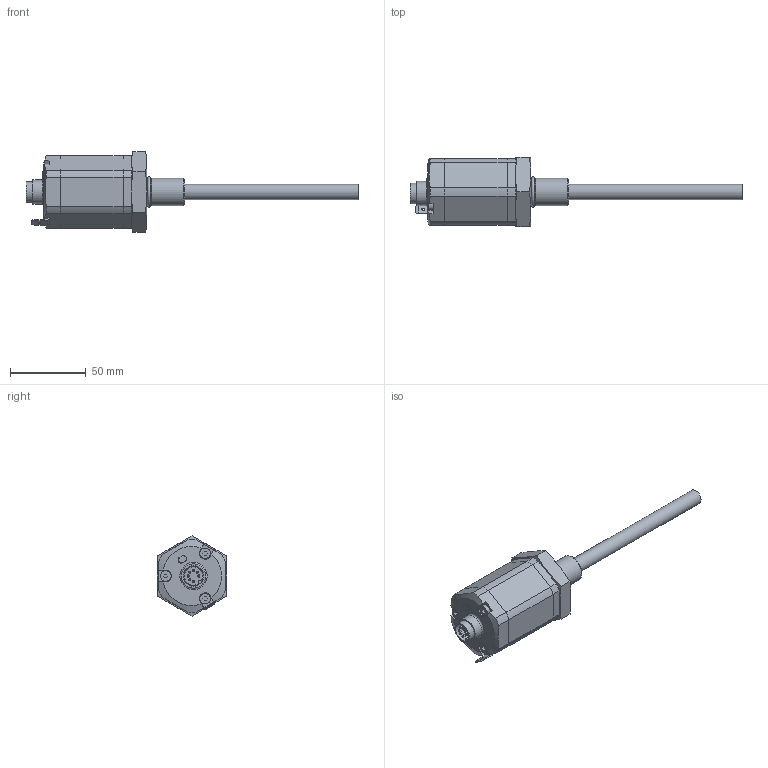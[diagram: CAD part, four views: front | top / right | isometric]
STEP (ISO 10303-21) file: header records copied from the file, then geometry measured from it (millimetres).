
FILE_DESCRIPTION( ( 'STEP AP203' ), '1' );
FILE_NAME( 'p:/temp/worker_29/temp/exporttempdir_308_383_TjamK/format_0/RH5 M A 0025M 01 D70 1 S1011B1_(M_A_M_S_25_1_D70_S_1_Standard_1_1_B_1_-).stp', '2021-08-26T12:01:54', ( 'License CC BY-ND 4.0' ), ( 'CADENAS' ), ' ', 'PARTsolutions', ' ' );
FILE_SCHEMA( ( 'CONFIG_CONTROL_DESIGN' ) );
Length unit declared in the file: millimetre
Products named in the file (3): RH5 M A 0025M  01 D70 1 S1011B1_(M_A_M_S_25_1_D70_S_1_Standard_1_1_B_1_-); _RH5 SSI_(M_D70)_EIP; _RHV STAB3_(A_25_M)_STAB
Assembly tree (2 placements, depth 2):
  RH5 M A 0025M  01 D70 1 S1011B1_(M_A_M_S_25_1_D70_S_1_Standard_1_1_B_1_-)
    _RH5 SSI_(M_D70)_EIP
    _RHV STAB3_(A_25_M)_STAB
Bounding box: 219.2 x 46 x 53.12 mm (x, y, z)
Volume: 130212.7 mm3; surface area: 22437.5 mm2
Topology: 2 solids, 2 shells, 192 faces, 464 edges, 298 vertices
Faces by surface type: plane 110, cylinder 52, cone 18, bspline 7, torus 5
Full cylindrical faces by diameter (mm): 1.475 x7, 1.7 x1, 7 x3, 10 x1, 10.2 x1, 13.6 x1, 16 x1, 16.16 x2, 18 x1
Entity records: 5734 total; most frequent: CARTESIAN_POINT 1290, DIRECTION 903, ORIENTED_EDGE 848, EDGE_CURVE 424, AXIS2_PLACEMENT_3D 332, VERTEX_POINT 291, EDGE_LOOP 248, LINE 239
